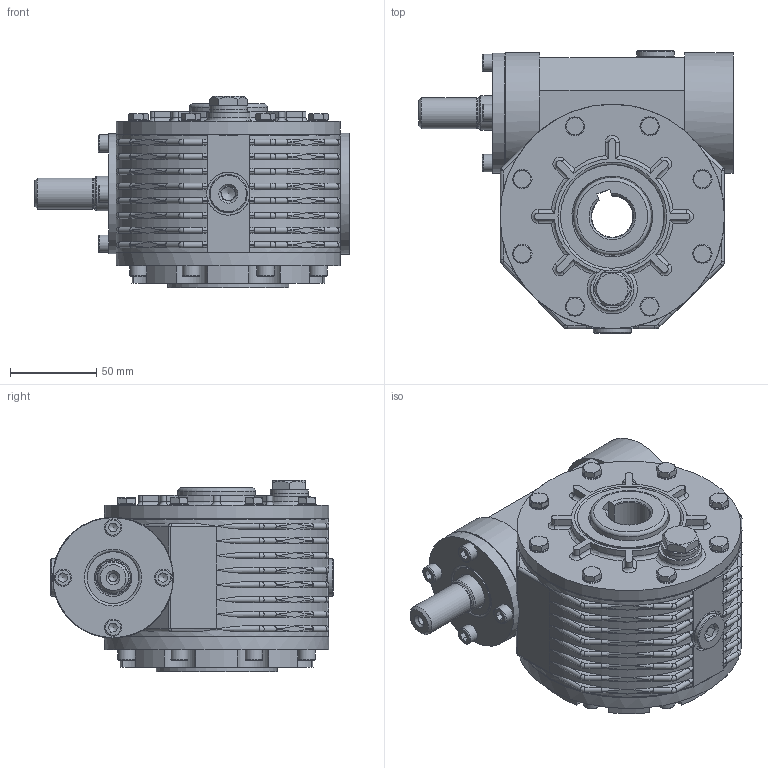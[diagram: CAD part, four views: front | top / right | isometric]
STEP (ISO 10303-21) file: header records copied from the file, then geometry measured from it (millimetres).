
FILE_DESCRIPTION((''),'2;1');
FILE_NAME('Y:\Archivi Inventor\Prog_01\GRAND_20\figuirini\mrv20_sito\RV20\RV20_fp2.stp','2013-02-11T08:18:28',('tech3'),(''),'Autodesk Inventor 2013','Autodesk Inventor 2013','');
FILE_SCHEMA(('AUTOMOTIVE_DESIGN { 1 0 10303 214 1 1 1 1 }'));
Length unit declared in the file: millimetre
Products named in the file (18): RV20; 0102001; Coperchietto_47x7; Guarnizione 3_8 GAS; Tappo 3_8 GAS_esagn_incsst; mozzo_corona_fig; PARAOLIO 45x60x8; 0102029; 0102002-A1_fig; ISO 4762 M6 x 16; DIN EN 24017 M6 x 12; Tappo3_8 GAS; 0102004; 0102012-A0; 0102028; DIN EN ISO 4762 M6 x 20; 0102011; PARAOLIO 20x30x8
Assembly tree (40 placements, depth 2):
  RV20
    0102001
    Coperchietto_47x7
    Guarnizione 3_8 GAS  x3
    Tappo 3_8 GAS_esagn_incsst  x2
    mozzo_corona_fig
    PARAOLIO 45x60x8  x2
    0102029  x2
    0102002-A1_fig
    ISO 4762 M6 x 16  x8
    DIN EN 24017 M6 x 12  x9
    Tappo3_8 GAS
    0102004
    0102012-A0
    0102028
    DIN EN ISO 4762 M6 x 20  x4
    0102011
    PARAOLIO 20x30x8
Bounding box: 182.05 x 163.5 x 110.81 mm (x, y, z)
Volume: 1438661.3 mm3; surface area: 300156.1 mm2
Topology: 40 solids, 52 shells, 1438 faces, 3374 edges, 2038 vertices
Faces by surface type: plane 542, cylinder 494, cone 141, torus 131, bspline 130
Full cylindrical faces by diameter (mm): 2 x2, 4.917 x21, 6 x21, 6.5 x32, 6.647 x4, 6.75 x8, 8 x2, 8.88 x9, 10 x12, 11 x8, 13.046 x1, 14.95 x3, 16.3 x3, 16.5 x2, 17.4 x1, 18 x1, 20 x1, 22 x6, 23.105 x1, 25 x2, 28 x1, 30 x2, 41.36 x1, 44.4 x2, 45 x4, 47 x4, 49.5 x1, 50.605 x2, 55.5 x2, 60 x5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
Entity records: 37459 total; most frequent: CARTESIAN_POINT 12794, DIRECTION 5242, ORIENTED_EDGE 4644, EDGE_CURVE 2322, AXIS2_PLACEMENT_3D 2264, VERTEX_POINT 1531, EDGE_LOOP 1405, CIRCLE 1237
